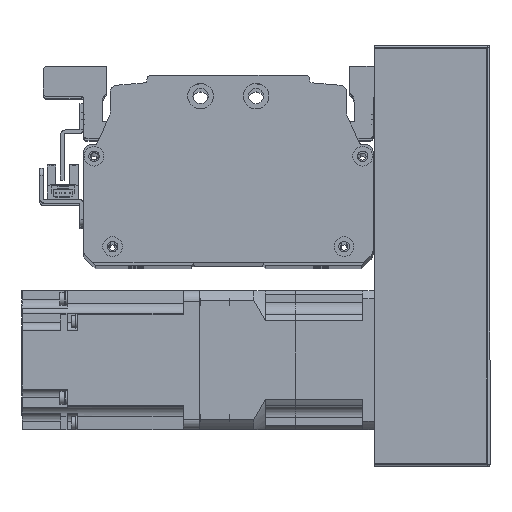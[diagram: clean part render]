
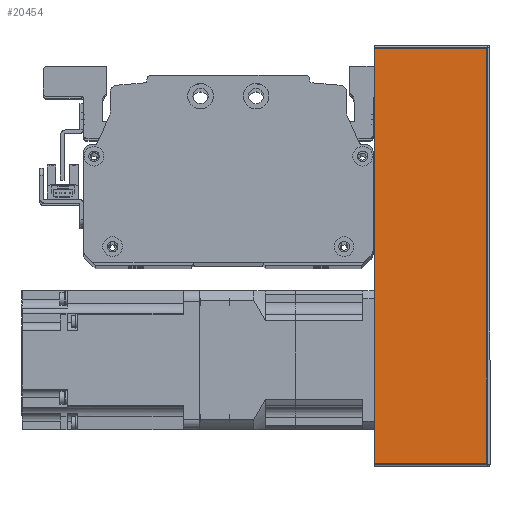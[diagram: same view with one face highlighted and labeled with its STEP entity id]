
A CAD part, top view. The second image highlights one B-rep face of the part: STEP entity #20454.
In plain terms, the highlighted planar face has unit normal (0, 0, 1) as drawn and (0, 1, 0) by its records, which use the part's own axes.
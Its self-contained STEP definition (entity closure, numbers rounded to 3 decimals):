
#568=PLANE('',#22445);
#1775=LINE('',#33291,#3399);
#1789=LINE('',#33336,#3413);
#1793=LINE('',#33358,#3417);
#1812=LINE('',#33421,#3436);
#3399=VECTOR('',#27038,10.);
#3413=VECTOR('',#27086,10.);
#3417=VECTOR('',#27120,10.);
#3436=VECTOR('',#27203,10.);
#5788=FACE_OUTER_BOUND('',#7228,.T.);
#7228=EDGE_LOOP('',(#17074,#17075,#17076,#17077));
#10060=VERTEX_POINT('',#33288);
#10061=VERTEX_POINT('',#33290);
#10074=VERTEX_POINT('',#33331);
#10075=VERTEX_POINT('',#33334);
#12493=EDGE_CURVE('',#10061,#10060,#1775,.T.);
#12517=EDGE_CURVE('',#10074,#10075,#1789,.T.);
#12529=EDGE_CURVE('',#10060,#10074,#1793,.T.);
#12560=EDGE_CURVE('',#10075,#10061,#1812,.T.);
#17074=ORIENTED_EDGE('',*,*,#12517,.T.);
#17075=ORIENTED_EDGE('',*,*,#12560,.T.);
#17076=ORIENTED_EDGE('',*,*,#12493,.T.);
#17077=ORIENTED_EDGE('',*,*,#12529,.T.);
#20454=ADVANCED_FACE('',(#5788),#568,.F.);
#22445=AXIS2_PLACEMENT_3D('',#33420,#27201,#27202);
#27038=DIRECTION('',(-1.,0.,0.));
#27086=DIRECTION('',(1.,0.,0.));
#27120=DIRECTION('',(0.,0.,1.));
#27201=DIRECTION('center_axis',(0.,-1.,0.));
#27202=DIRECTION('ref_axis',(-1.,0.,0.));
#27203=DIRECTION('',(0.,0.,-1.));
#33288=CARTESIAN_POINT('',(-90.,38.,-25.));
#33290=CARTESIAN_POINT('',(90.,38.,-25.));
#33291=CARTESIAN_POINT('',(-91.,38.,-25.));
#33331=CARTESIAN_POINT('',(-90.,38.,24.));
#33334=CARTESIAN_POINT('',(90.,38.,24.));
#33336=CARTESIAN_POINT('',(45.5,38.,24.));
#33358=CARTESIAN_POINT('',(-90.,38.,0.));
#33420=CARTESIAN_POINT('Origin',(91.,38.,0.));
#33421=CARTESIAN_POINT('',(90.,38.,0.));
